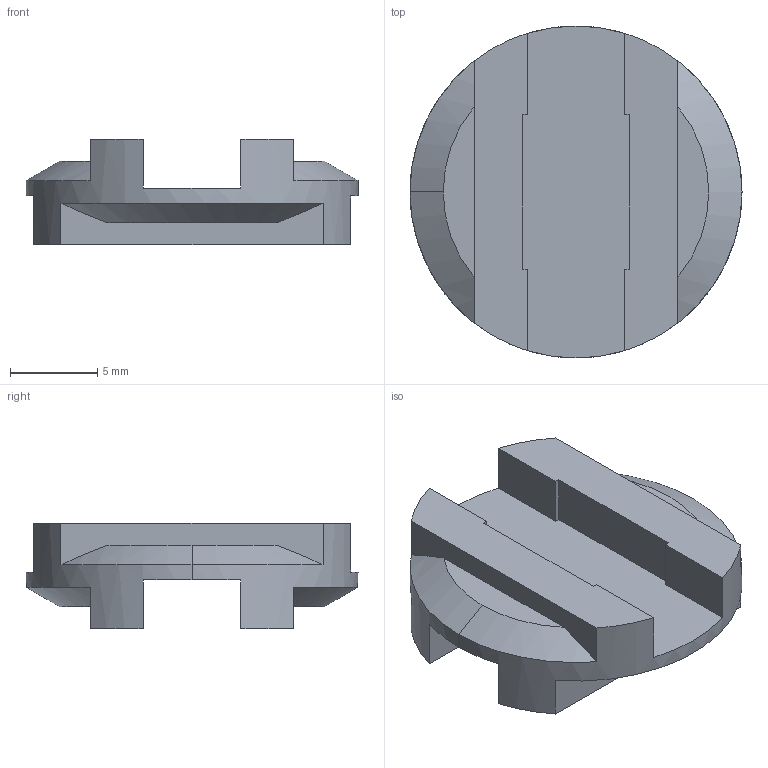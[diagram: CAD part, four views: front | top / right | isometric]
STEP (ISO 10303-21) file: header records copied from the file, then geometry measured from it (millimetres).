
FILE_DESCRIPTION((''),'2;1');
FILE_NAME('OD12-19','2016-09-09T',('SYSTEM'),(''),'PRO/ENGINEER BY PARAMETRIC TECHNOLOGY CORPORATION, 2015110','PRO/ENGINEER BY PARAMETRIC TECHNOLOGY CORPORATION, 2015110','');
FILE_SCHEMA(('AUTOMOTIVE_DESIGN { 1 0 10303 214 1 1 1 1 }'));
Length unit declared in the file: inch
Products named in the file (1): OD12-19
Bounding box: 19.05 x 19.05 x 6.05 mm (x, y, z)
Volume: 851.6 mm3; surface area: 1017.2 mm2
Topology: 1 solids, 1 shells, 41 faces, 117 edges, 78 vertices
Faces by surface type: plane 34, cone 5, cylinder 2
Entity records: 1705 total; most frequent: CARTESIAN_POINT 272, ORIENTED_EDGE 234, DIRECTION 217, EDGE_CURVE 117, VECTOR 83, LINE 83, VERTEX_POINT 78, AXIS2_PLACEMENT_3D 67
